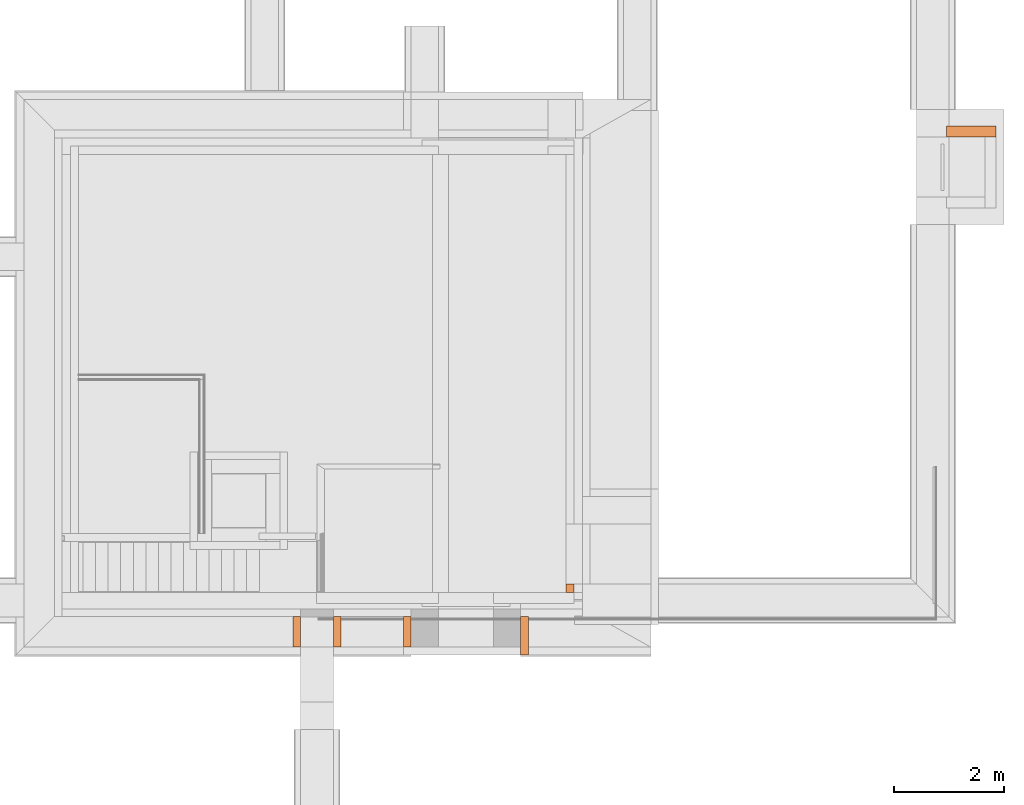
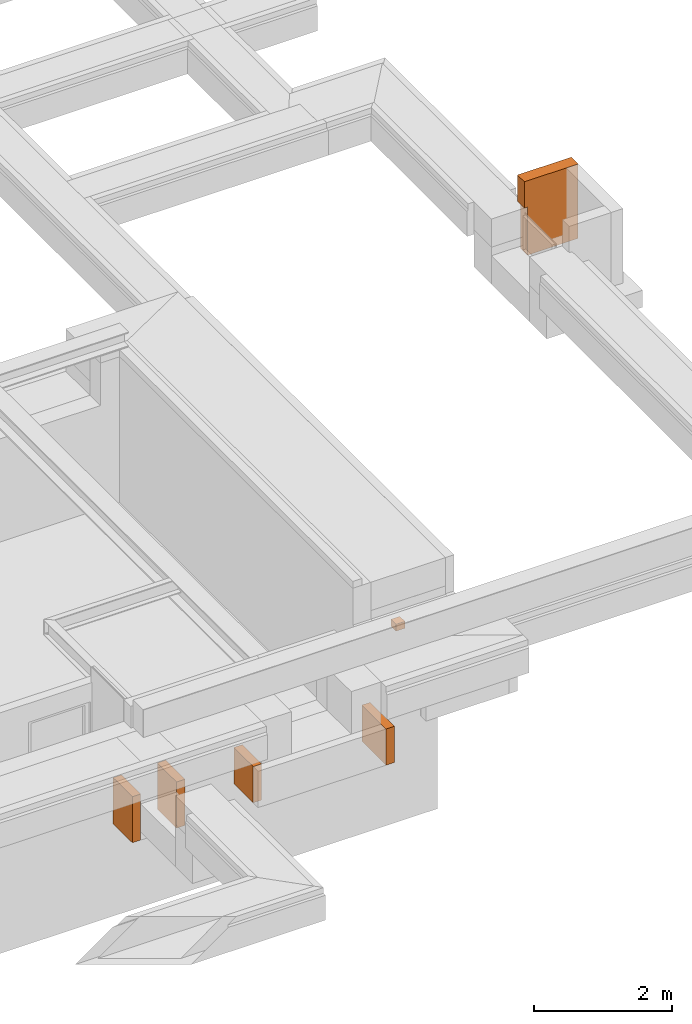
# One storey, part 10 of 11: 6 proxies.
"""IFC2X3 building model written with IfcOpenShell, lengths in millimetres."""

from ifc_helpers import new_model, entity, si_unit, converted_unit, derived_unit, money_unit, direction, frame, origin_with_axes, place, context, subcontext, project, spatial, faceted_brep, material, type_object, element, save


model = new_model("IFC2X3")

# Units and contexts
model_context = context("Model", 3, precision=0.01, world=origin_with_axes(), true_north=direction((0.0, 1.0)))
body_context = subcontext(model_context, "Body", "Model", "MODEL_VIEW")
ifc_project = project(units=[si_unit("LENGTHUNIT", "METRE", prefix="MILLI"), si_unit("AREAUNIT", "SQUARE_METRE"), si_unit("VOLUMEUNIT", "CUBIC_METRE"), converted_unit("PLANEANGLEUNIT", "DEGREE", entity("IfcPlaneAngleMeasure", 0.0174532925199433), si_unit("PLANEANGLEUNIT", "RADIAN"), dimensions=[0, 0, 0, 0, 0, 0, 0]), money_unit("EUR"), converted_unit("TIMEUNIT", "Year", entity("IfcTimeMeasure", 31556926.0), si_unit("TIMEUNIT", "SECOND"), dimensions=[0, 0, 1, 0, 0, 0, 0]), si_unit("MASSUNIT", "GRAM", prefix="KILO"), si_unit("THERMODYNAMICTEMPERATUREUNIT", "DEGREE_CELSIUS"), si_unit("LUMINOUSINTENSITYUNIT", "LUMEN"), si_unit("ENERGYUNIT", "JOULE", prefix="MEGA"), derived_unit("THERMALCONDUCTANCEUNIT", [(si_unit("POWERUNIT", "WATT"), 1), (si_unit("LENGTHUNIT", "METRE"), -1), (si_unit("THERMODYNAMICTEMPERATUREUNIT", "KELVIN"), -1)]), derived_unit("SPECIFICHEATCAPACITYUNIT", [(si_unit("ENERGYUNIT", "JOULE"), 1), (si_unit("MASSUNIT", "GRAM", prefix="KILO"), -1), (si_unit("THERMODYNAMICTEMPERATUREUNIT", "KELVIN"), -1)]), derived_unit("MASSDENSITYUNIT", [(si_unit("MASSUNIT", "GRAM", prefix="KILO"), 1), (si_unit("VOLUMEUNIT", "CUBIC_METRE"), -1)])], contexts=[model_context])

# Site, building, storey
site_placement = place(None, origin_with_axes())
site = spatial("IfcSite", under=ifc_project, at=site_placement, Name="Site", CompositionType="ELEMENT")
building_placement = place(site_placement, origin_with_axes())
building = spatial("IfcBuilding", under=site, at=building_placement, Name="Naam gebouw", CompositionType="ELEMENT")
storey_placement = place(building_placement, frame((0.0, 0.0, -3060.0), z_axis=(0.0, 0.0, 1.0), x_axis=(1.0, 0.0, 0.0)))
storey = spatial("IfcBuildingStorey", under=building, at=storey_placement, Name="Kelder", CompositionType="ELEMENT", Elevation=-3060.0)

# Proxies
ifc_material_1 = material(Name="Beton gewapend C")
building_element_proxy_type_1 = type_object("IfcBuildingElementProxyType", Name="Beton gewapend C 150", PredefinedType="NOTDEFINED")
proxy_1_placement = place(storey_placement, frame((23200.00000000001, 4679.999999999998, 2575.0), z_axis=(0.0, 0.0, 1.0), x_axis=(0.0, 1.0, 0.0)))
element("IfcBuildingElementProxy", 1, at=proxy_1_placement, inside=storey, type_object=building_element_proxy_type_1, material=ifc_material_1, Name="f2- Met cement gebonden producten (alle vulmiddelen)_Wand-x", context=body_context, shape_type="Brep", body=[
    faceted_brep([(0.0, -149.9999999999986, 119.9999999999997), (150.0000000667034, -149.9999999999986, 119.9999999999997), (150.0000000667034, 0.0, 119.9999999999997), (0.0, 0.0, 119.9999999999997), (0.0, -149.9999999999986, 0.0), (150.0000000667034, -149.9999999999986, 0.0), (150.0000000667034, 0.0, 0.0), (0.0, 0.0, 0.0)], [[[0, 1, 2, 3]], [[4, 5, 1, 0]], [[2, 1, 5, 6]], [[3, 2, 6, 7]], [[4, 0, 3, 7]], [[7, 6, 5, 4]]]),
])
building_element_proxy_type_2 = type_object("IfcBuildingElementProxyType", Name="Beton gewapend C 200", PredefinedType="NOTDEFINED")
proxy_2_placement = place(storey_placement, frame((30149.99999999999, 12999.99778166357, 1725.0), z_axis=(0.0, 0.0, 1.0), x_axis=(1.0, 0.0, 0.0)))
element("IfcBuildingElementProxy", 2, at=proxy_2_placement, inside=storey, type_object=building_element_proxy_type_2, material=ifc_material_1, Name="f2- Met cement gebonden producten (alle vulmiddelen)_Wand-x", context=body_context, shape_type="Brep", body=[
    faceted_brep([(899.9999999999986, 199.9999999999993, 0.0), (50.00000008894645, 199.9999999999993, 0.0), (50.00000013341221, 199.9999999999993, 849.9999999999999), (0.0, 199.9999999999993, 849.9999999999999), (0.0, 199.9999999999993, 1315.0), (899.9999999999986, 199.9999999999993, 1315.0), (899.9999999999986, 0.0, 0.0), (50.00000008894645, 0.0, 0.0), (50.00000013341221, 0.0, 849.9999999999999), (0.0, 0.0, 849.9999999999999), (0.0, 0.0, 1315.0), (899.9999999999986, 0.0, 1315.0)], [[[0, 1, 2, 3, 4, 5]], [[6, 7, 1, 0]], [[2, 1, 7, 8]], [[8, 9, 3, 2]], [[10, 4, 3, 9]], [[4, 10, 11, 5]], [[5, 11, 6, 0]], [[8, 7, 6, 11, 10, 9]]]),
])
ifc_material_2 = material(Name="Isolatie - Kunststof hard")
building_element_proxy_type_3 = type_object("IfcBuildingElementProxyType", Name="Isolatie - Kunststof hard 140", PredefinedType="NOTDEFINED")
proxy_3_placement = place(storey_placement, frame((18954.99992779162, 4379.999999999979, 1185.0), z_axis=(0.0, 0.0, 1.0), x_axis=(1.065411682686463e-07, -0.9999999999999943, 0.0)))
element("IfcBuildingElementProxy", 3, at=proxy_3_placement, inside=storey, type_object=building_element_proxy_type_3, material=ifc_material_2, Name="n7 Kunststof met cellenstructuur_Wand-x", context=body_context, shape_type="Brep", body=[
    faceted_brep([(140.0000149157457, 140.0000000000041, 0.0), (140.0000149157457, 140.0000000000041, 814.9999999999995), (699.99999999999, 140.0000000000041, 814.9999999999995), (699.99999999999, 140.0000000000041, 0.0), (139.9999999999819, 0.0, 814.9999999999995), (139.9999999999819, 0.0, 0.0), (699.99999999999, 0.0, 814.9999999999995), (699.99999999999, 0.0, 0.0)], [[[0, 1, 2, 3]], [[4, 1, 0, 5]], [[1, 4, 6, 2]], [[6, 7, 3, 2]], [[5, 0, 3, 7]], [[4, 5, 7, 6]]]),
])
proxy_4_placement = place(storey_placement, frame((18354.99992761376, 4379.999999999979, 1185.0), z_axis=(0.0, 0.0, 1.0), x_axis=(1.065411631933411e-07, -0.9999999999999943, 0.0)))
element("IfcBuildingElementProxy", 4, at=proxy_4_placement, inside=storey, type_object=building_element_proxy_type_3, material=ifc_material_2, Name="n7 Kunststof met cellenstructuur_Wand-x", context=body_context, shape_type="Brep", body=[
    faceted_brep([(139.999999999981, 0.0, 0.0), (139.999999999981, 0.0, 814.9999999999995), (699.9999999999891, 0.0, 814.9999999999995), (699.9999999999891, 0.0, 0.0), (139.9999850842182, -140.0000000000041, 814.9999999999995), (139.9999850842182, -140.0000000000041, 0.0), (699.9999999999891, -140.0000000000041, 814.9999999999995), (699.9999999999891, -140.0000000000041, 0.0)], [[[0, 1, 2, 3]], [[4, 1, 0, 5]], [[1, 4, 6, 2]], [[3, 2, 6, 7]], [[5, 0, 3, 7]], [[4, 5, 7, 6]]]),
])
proxy_5_placement = place(storey_placement, frame((22375.00013137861, 4379.999941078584, 1185.0), z_axis=(0.0, 0.0, 1.0), x_axis=(0.0, -1.0, 0.0)))
element("IfcBuildingElementProxy", 5, at=proxy_5_placement, inside=storey, type_object=building_element_proxy_type_3, material=ifc_material_2, Name="n7 Kunststof met cellenstructuur_Wand-x", context=body_context, shape_type="Brep", body=[
    faceted_brep([(139.9999410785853, 140.0000000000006, 0.0), (139.9999410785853, 140.0000000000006, 640.0000000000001), (839.9999986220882, 140.0000000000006, 640.0000000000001), (839.9999986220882, 140.0000000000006, 0.0), (139.9999410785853, 0.0, 640.0000000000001), (139.9999410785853, 0.0, 0.0), (839.9999954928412, 0.0, 640.0000000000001), (839.9999954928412, 0.0, 0.0)], [[[0, 1, 2, 3]], [[4, 1, 0, 5]], [[1, 4, 6, 2]], [[3, 2, 6, 7]], [[5, 0, 3, 7]], [[4, 5, 7, 6]]]),
])
proxy_6_placement = place(storey_placement, frame((20375.00005364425, 3679.99999028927, 1185.0), z_axis=(0.0, 0.0, 1.0), x_axis=(0.0, 1.0, 0.0)))
element("IfcBuildingElementProxy", 6, at=proxy_6_placement, inside=storey, type_object=building_element_proxy_type_3, material=ifc_material_2, Name="n7 Kunststof met cellenstructuur_Wand-x", context=body_context, shape_type="Brep", body=[
    faceted_brep([(560.0000097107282, 0.0, 0.0), (560.0000097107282, 0.0, 640.0000000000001), (0.0, 0.0, 640.0000000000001), (0.0, 0.0, 0.0), (560.0000097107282, 140.0000000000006, 640.0000000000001), (560.0000097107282, 140.0000000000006, 0.0), (3.129246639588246e-06, 140.0000000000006, 640.0000000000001), (3.129246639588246e-06, 140.0000000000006, 0.0)], [[[0, 1, 2, 3]], [[4, 1, 0, 5]], [[1, 4, 6, 2]], [[3, 2, 6, 7]], [[5, 0, 3, 7]], [[4, 5, 7, 6]]]),
])

save(model, "model.ifc")
